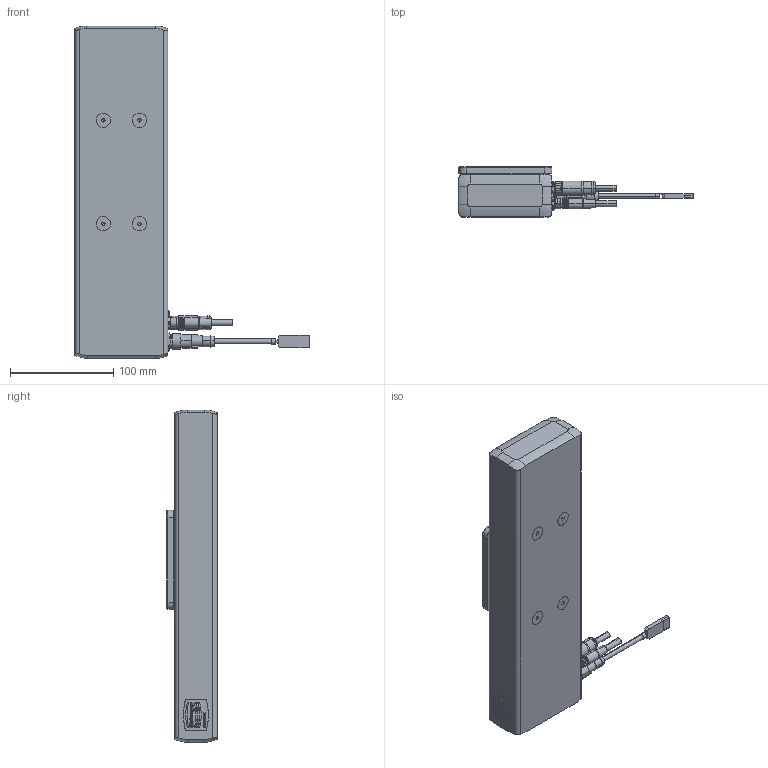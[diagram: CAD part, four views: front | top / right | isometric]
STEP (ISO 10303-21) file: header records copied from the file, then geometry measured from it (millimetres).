
FILE_DESCRIPTION((''),'2;1');
FILE_NAME('WEB_LTP90-120_ASM','2018-06-28T',('de_pablo'),(''),'PRO/ENGINEER BY PARAMETRIC TECHNOLOGY CORPORATION, 2015280','PRO/ENGINEER BY PARAMETRIC TECHNOLOGY CORPORATION, 2015280','');
FILE_SCHEMA(('AUTOMOTIVE_DESIGN { 1 0 10303 214 1 1 1 1 }'));
Products named in the file (15): GRUNDKOERPER_120; SCHIEBER_; 789000_010_10_LOGO_30X24X1; SLOTBLECH; SCHIEBERPLATTE; 9974058_EBST_CONEC_1424233; 997XXXX_SENSORKABEL_SAC; 9974062_MUTTER_M12X1_M_FASE; 9974061_M12-MINI-USB_1440711; 9973261_KABEL_VS_FSDB_IP20SDA; 9972972_STECKER_09-3403-00-03; 997XXXX_KUPPLG_M8X1_D14_SW13; ISO7380_LINSENKOPF_M3X6; D912M4L10V1_A2; WEB_LTP90-120_ASM
Assembly tree (20 placements, depth 2):
  WEB_LTP90-120_ASM
    GRUNDKOERPER_120
    SCHIEBER_
    789000_010_10_LOGO_30X24X1
    SLOTBLECH
    SCHIEBERPLATTE
    9974058_EBST_CONEC_1424233
    997XXXX_SENSORKABEL_SAC
    9974062_MUTTER_M12X1_M_FASE
    9974061_M12-MINI-USB_1440711
    9973261_KABEL_VS_FSDB_IP20SDA
    9972972_STECKER_09-3403-00-03
    997XXXX_KUPPLG_M8X1_D14_SW13
    ISO7380_LINSENKOPF_M3X6  x4
    D912M4L10V1_A2  x4
Bounding box: 226.5 x 48.5 x 321 mm (x, y, z)
Volume: 1051987.4 mm3; surface area: 185431.7 mm2
Topology: 20 solids, 20 shells, 2043 faces, 5308 edges, 3406 vertices
Faces by surface type: plane 835, cylinder 620, extrusion 272, cone 167, bspline 93, torus 48, sphere 8
Entity records: 92831 total; most frequent: CARTESIAN_POINT 22952, ORIENTED_EDGE 10120, DIRECTION 8986, PRESENTATION_STYLE_ASSIGNMENT 5096, EDGE_CURVE 5060, STYLED_ITEM 4053, CURVE_STYLE 4011, VERTEX_POINT 3274
